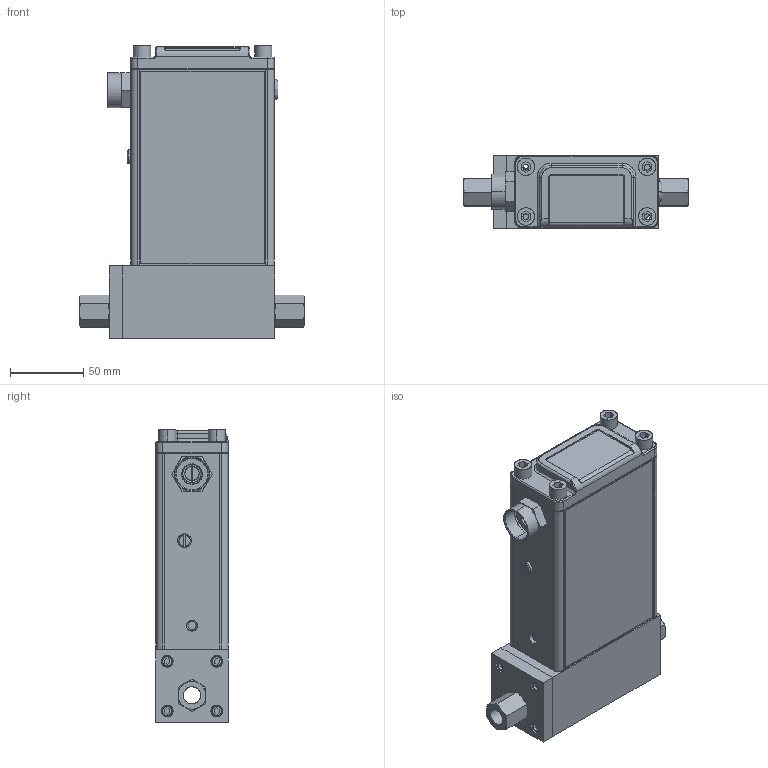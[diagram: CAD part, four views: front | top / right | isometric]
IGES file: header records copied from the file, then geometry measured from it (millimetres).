
Start section: SolidWorks IGES file using analytic representation for surfaces
Global section: file name: G:\Engineering\CAD MODELS FOR SALES\CAD MODEL STORAGE\SLA\SLAMF61\CUSTOMER FILES\IGES\SLAMF61-S-1G-0-K-REVB.IGS; native system: SolidWorks 2017; preprocessor: SolidWorks 2017; author: JStauffer1; date: 170808.150455; units: inch
Bounding box: 153.4 x 49.5 x 199.98 mm (x, y, z)
Surface area: 99469.6 mm2 (no closed solid volume)
Topology: 0 solids, 0 shells, 388 faces, 4058 edges, 4056 vertices
Faces by surface type: bspline 287, revolution 101
